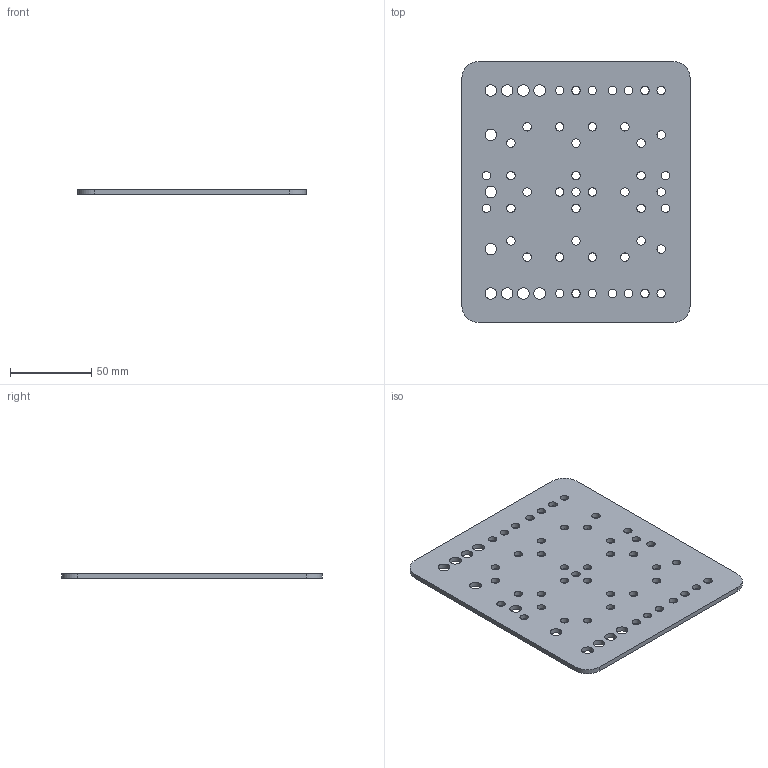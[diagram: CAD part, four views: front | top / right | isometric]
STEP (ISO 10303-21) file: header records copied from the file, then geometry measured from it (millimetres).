
FILE_DESCRIPTION(/* description */ ('STEP AP203'),/* implementation_level */ '2;1');
FILE_NAME(/* name */ 'MotionRail Gantry Plate - Extra Large - 140x160mm.step',/* time_stamp */ '2025-05-29T12:25:35+02:00',/* author */ (''),/* organization */ (''),/* preprocessor_version */ 'ST-DEVELOPER v20.1',/* originating_system */ 'Autodesk Translation Framework v14.4.0.0',/* authorisation */ '');
FILE_SCHEMA (('AUTOMOTIVE_DESIGN { 1 0 10303 214 3 1 1 }'));
Length unit declared in the file: millimetre
Products named in the file (1): Open Rail Gantry Plate 80mm
Bounding box: 140 x 160 x 3 mm (x, y, z)
Volume: 62705.2 mm3; surface area: 46542.5 mm2
Topology: 1 solids, 1 shells, 67 faces, 195 edges, 130 vertices
Faces by surface type: cylinder 61, plane 6
Full cylindrical faces by diameter (mm): 5.2 x46, 7.1 x11
Entity records: 2552 total; most frequent: DIRECTION 453, CARTESIAN_POINT 393, ORIENTED_EDGE 390, EDGE_CURVE 195, AXIS2_PLACEMENT_3D 190, EDGE_LOOP 181, VERTEX_POINT 130, CIRCLE 122
